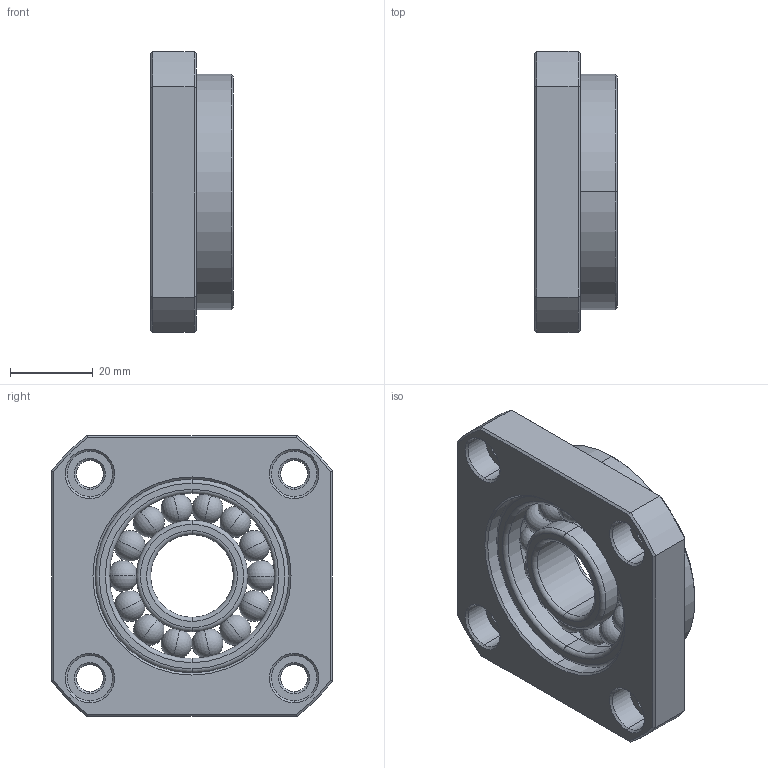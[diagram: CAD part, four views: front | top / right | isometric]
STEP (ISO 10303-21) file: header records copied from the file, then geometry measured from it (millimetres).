
FILE_DESCRIPTION (( 'STEP AP203' ), '1' );
FILE_NAME ('FF20²Õ¦X¥ó.STEP', '2022-01-21T07:16:09', ( '' ), ( '' ), 'SwSTEP 2.0', 'SolidWorks 2018', '' );
FILE_SCHEMA (( 'CONFIG_CONTROL_DESIGN' ));
Length unit declared in the file: millimetre
Products named in the file (3): FF20組合件; FF20; 6203SLDPRT_6204ZZ,DDU
Assembly tree (2 placements, depth 2):
  FF20組合件
    FF20
    6203SLDPRT_6204ZZ,DDU
Bounding box: 20 x 68 x 68 mm (x, y, z)
Volume: 47403.2 mm3; surface area: 22998.4 mm2
Topology: 17 solids, 17 shells, 147 faces, 350 edges, 214 vertices
Faces by surface type: cone 38, cylinder 36, sphere 28, plane 23, torus 22
Entity records: 4059 total; most frequent: DIRECTION 746, CARTESIAN_POINT 652, ORIENTED_EDGE 560, AXIS2_PLACEMENT_3D 330, EDGE_CURVE 280, CIRCLE 178, VERTEX_POINT 172, EDGE_LOOP 166
